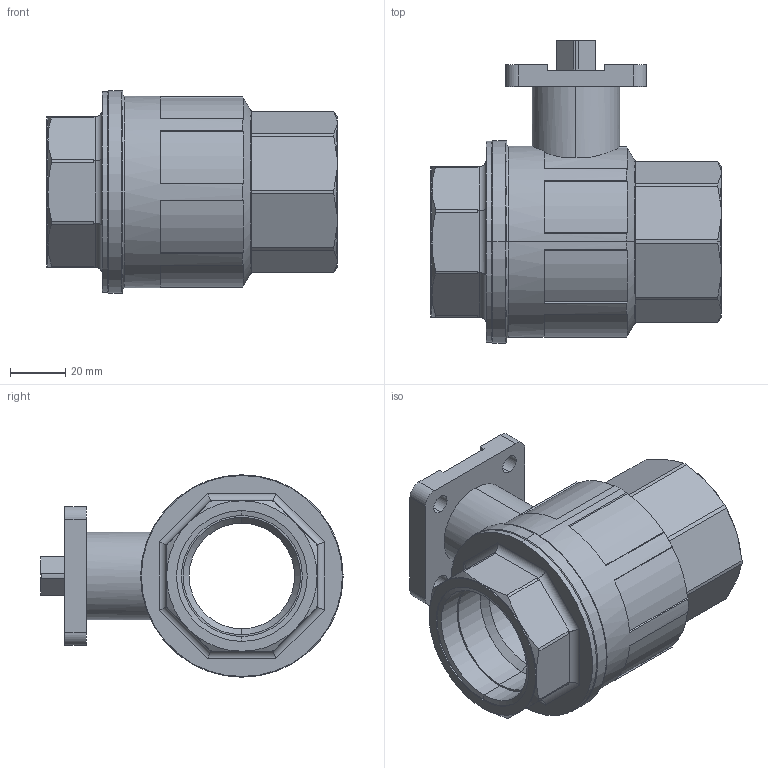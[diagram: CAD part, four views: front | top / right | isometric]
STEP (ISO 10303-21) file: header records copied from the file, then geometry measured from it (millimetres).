
FILE_DESCRIPTION (( 'STEP AP203' ), '1' );
FILE_NAME ('b2f-12.STEP', '2021-06-29T18:53:47', ( 'Owner' ), ( '' ), 'SwSTEP 2.0', 'SolidWorks 2017', '' );
FILE_SCHEMA (( 'CONFIG_CONTROL_DESIGN' ));
Length unit declared in the file: inch
Products named in the file (2): b2f-12
Bounding box: 104.9 x 109.18 x 73.15 mm (x, y, z)
Volume: 175052.7 mm3; surface area: 72421.3 mm2
Topology: 3 solids, 5 shells, 252 faces, 672 edges, 434 vertices
Faces by surface type: cylinder 107, plane 98, cone 39, sphere 4, torus 4
Entity records: 8179 total; most frequent: CARTESIAN_POINT 1742, DIRECTION 1327, ORIENTED_EDGE 1324, EDGE_CURVE 662, AXIS2_PLACEMENT_3D 508, VERTEX_POINT 428, VECTOR 311, LINE 311
